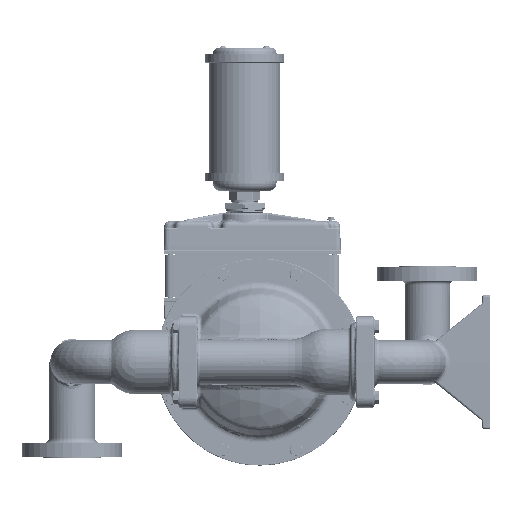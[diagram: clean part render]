
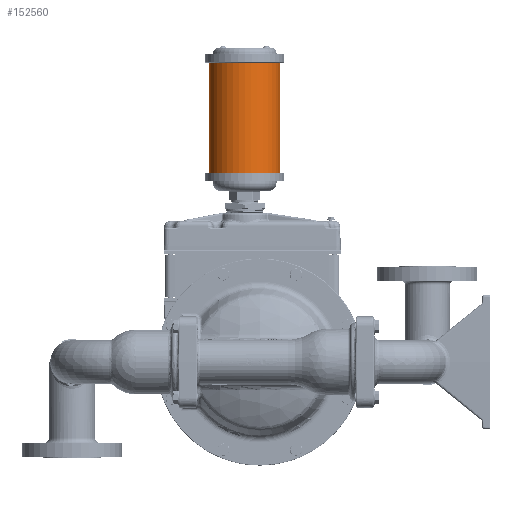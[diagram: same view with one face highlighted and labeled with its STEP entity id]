
A CAD part, left-side view. The second image highlights one B-rep face of the part: STEP entity #152560.
In plain terms, the highlighted cylindrical face has radius 45.339 mm (diameter 90.678 mm), a partial arc.
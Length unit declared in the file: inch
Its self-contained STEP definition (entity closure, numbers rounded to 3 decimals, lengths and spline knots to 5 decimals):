
#1315 = CARTESIAN_POINT ( 'NONE',  ( 0., 2.535, 14.97 ) ) ;
#3091 = DIRECTION ( 'NONE',  ( 0., 0., -1. ) ) ;
#30695 = ORIENTED_EDGE ( 'NONE', *, *, #374884, .T. ) ;
#39152 = DIRECTION ( 'NONE',  ( 0., 0., 1. ) ) ;
#39912 = DIRECTION ( 'NONE',  ( 0., -1., 0. ) ) ;
#41927 = CARTESIAN_POINT ( 'NONE',  ( 0., 0.75, 9.47 ) ) ;
#75592 = DIRECTION ( 'NONE',  ( 0., 0., -1. ) ) ;
#76801 = FACE_OUTER_BOUND ( 'NONE', #140321, .T. ) ;
#114338 = AXIS2_PLACEMENT_3D ( 'NONE', #41927, #39152, #132291 ) ;
#114970 = AXIS2_PLACEMENT_3D ( 'NONE', #172678, #3091, #39912 ) ;
#130500 = VERTEX_POINT ( 'NONE', #251823 ) ;
#132291 = DIRECTION ( 'NONE',  ( 0., 1., 0. ) ) ;
#140321 = EDGE_LOOP ( 'NONE', ( #555084, #442830, #462922, #30695 ) ) ;
#152560 = ADVANCED_FACE ( 'NONE', ( #76801 ), #212322, .T. ) ;
#164138 = DIRECTION ( 'NONE',  ( 0., 0., -1. ) ) ;
#164343 = CARTESIAN_POINT ( 'NONE',  ( 0., -1.035, 14.97 ) ) ;
#165874 = CARTESIAN_POINT ( 'NONE',  ( 0., 2.535, 9.47 ) ) ;
#171258 = DIRECTION ( 'NONE',  ( 0., 0., -1. ) ) ;
#172678 = CARTESIAN_POINT ( 'NONE',  ( 0., 0.75, 16.079 ) ) ;
#177717 = CIRCLE ( 'NONE', #114338, 1.785 ) ;
#178379 = CIRCLE ( 'NONE', #494334, 1.785 ) ;
#212322 = CYLINDRICAL_SURFACE ( 'NONE', #114970, 1.785 ) ;
#251823 = CARTESIAN_POINT ( 'NONE',  ( 0., -1.035, 9.47 ) ) ;
#265390 = EDGE_CURVE ( 'NONE', #373593, #130500, #177717, .T. ) ;
#282031 = CARTESIAN_POINT ( 'NONE',  ( 0., 2.535, 14.97 ) ) ;
#291393 = CARTESIAN_POINT ( 'NONE',  ( 0., -1.035, 14.97 ) ) ;
#297205 = VERTEX_POINT ( 'NONE', #164343 ) ;
#301281 = DIRECTION ( 'NONE',  ( 0., -1., 0. ) ) ;
#306461 = VERTEX_POINT ( 'NONE', #1315 ) ;
#332845 = LINE ( 'NONE', #282031, #337686 ) ;
#337686 = VECTOR ( 'NONE', #75592, 39.37008 ) ;
#370673 = LINE ( 'NONE', #291393, #402832 ) ;
#373593 = VERTEX_POINT ( 'NONE', #165874 ) ;
#374884 = EDGE_CURVE ( 'NONE', #306461, #373593, #332845, .T. ) ;
#402832 = VECTOR ( 'NONE', #164138, 39.37008 ) ;
#414597 = EDGE_CURVE ( 'NONE', #297205, #130500, #370673, .T. ) ;
#417390 = EDGE_CURVE ( 'NONE', #297205, #306461, #178379, .T. ) ;
#442830 = ORIENTED_EDGE ( 'NONE', *, *, #414597, .F. ) ;
#462922 = ORIENTED_EDGE ( 'NONE', *, *, #417390, .T. ) ;
#494334 = AXIS2_PLACEMENT_3D ( 'NONE', #558565, #171258, #301281 ) ;
#555084 = ORIENTED_EDGE ( 'NONE', *, *, #265390, .T. ) ;
#558565 = CARTESIAN_POINT ( 'NONE',  ( 0., 0.75, 14.97 ) ) ;
